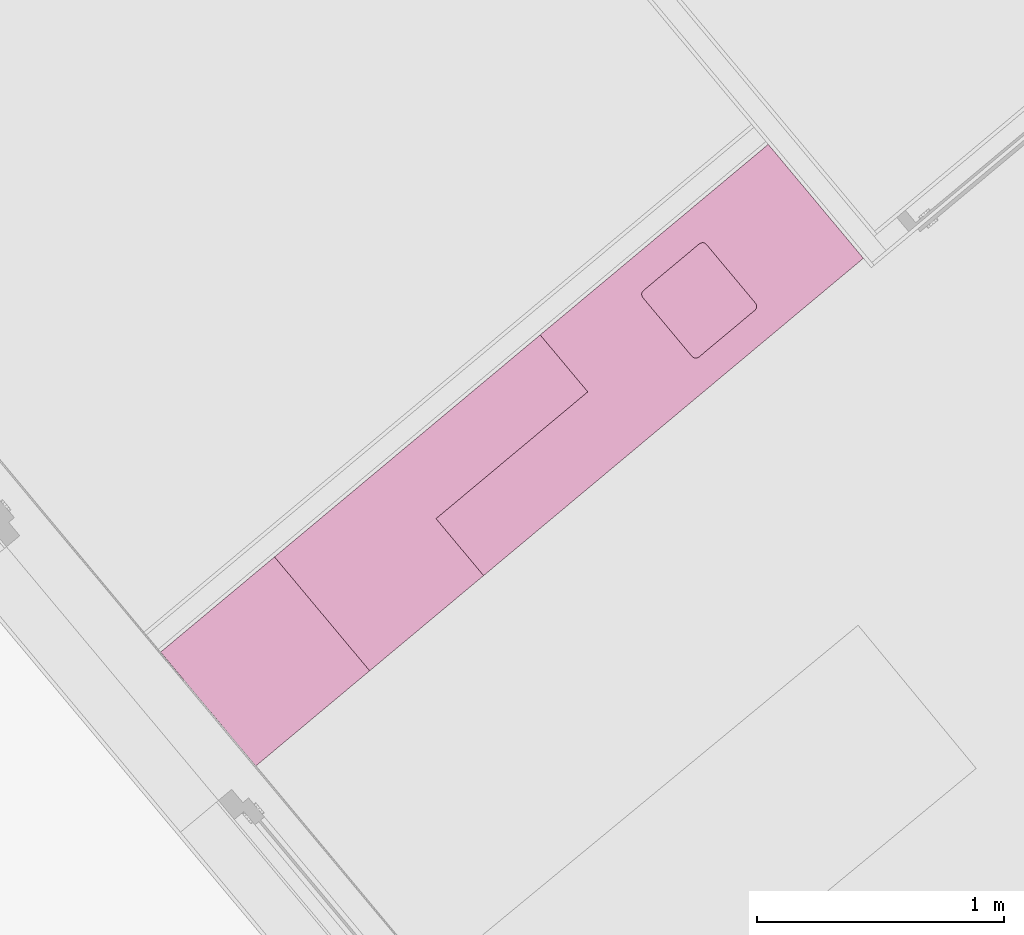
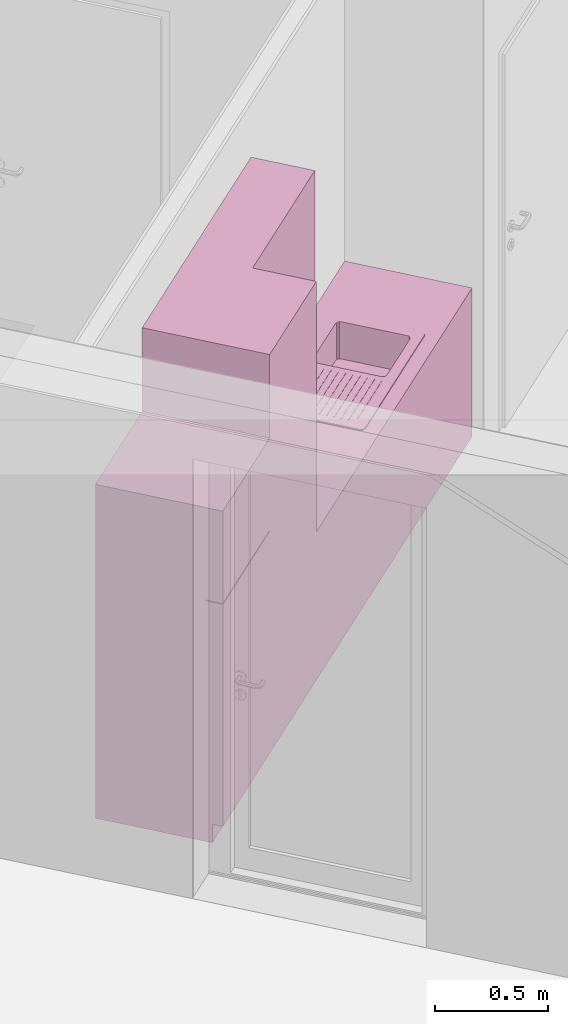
# One storey, part 70 of 75: 1 furniture element.
"""IFC4 building model written with IfcOpenShell, lengths in metres."""

from ifc_helpers import new_model, entity, si_unit, converted_unit, derived_unit, direction, frame, origin_with_axes, place, context, subcontext, project, spatial, polygons, source, transform, mapped, type_object, element, save


model = new_model("IFC4")

# Units and contexts
model_context = context("Model", 3, precision=1e-05, world=origin_with_axes(), true_north=direction((0.0, 1.0)))
body_context = subcontext(model_context, "Body", "Model", "MODEL_VIEW")
ifc_project = project(units=[si_unit("LENGTHUNIT", "METRE"), si_unit("AREAUNIT", "SQUARE_METRE"), si_unit("VOLUMEUNIT", "CUBIC_METRE"), converted_unit("PLANEANGLEUNIT", "DEGREE", entity("IfcPlaneAngleMeasure", 0.0174532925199), si_unit("PLANEANGLEUNIT", "RADIAN"), dimensions=[0, 0, 0, 0, 0, 0, 0]), converted_unit("TIMEUNIT", "Year", entity("IfcTimeMeasure", 31556926.0), si_unit("TIMEUNIT", "SECOND"), dimensions=[0, 0, 1, 0, 0, 0, 0]), si_unit("MASSUNIT", "GRAM", prefix="KILO"), si_unit("THERMODYNAMICTEMPERATUREUNIT", "DEGREE_CELSIUS"), si_unit("LUMINOUSINTENSITYUNIT", "LUMEN"), si_unit("ENERGYUNIT", "JOULE", prefix="MEGA"), derived_unit("THERMALCONDUCTANCEUNIT", [(si_unit("POWERUNIT", "WATT"), 1), (si_unit("LENGTHUNIT", "METRE"), -1), (si_unit("THERMODYNAMICTEMPERATUREUNIT", "KELVIN"), -1)]), derived_unit("SPECIFICHEATCAPACITYUNIT", [(si_unit("ENERGYUNIT", "JOULE"), 1), (si_unit("MASSUNIT", "GRAM", prefix="KILO"), -1), (si_unit("THERMODYNAMICTEMPERATUREUNIT", "KELVIN"), -1)]), derived_unit("MASSDENSITYUNIT", [(si_unit("MASSUNIT", "GRAM", prefix="KILO"), 1), (si_unit("VOLUMEUNIT", "CUBIC_METRE"), -1)])], contexts=[model_context])

# Site, building, storey, space
site_placement = place(None, frame((-0.00153261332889, -0.00661245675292, 0.0), z_axis=(0.0, 0.0, 1.0), x_axis=(1.0, 0.0, 0.0)))
site = spatial("IfcSite", under=ifc_project, at=site_placement, Name="Gelände", CompositionType="ELEMENT")
building_placement = place(site_placement, origin_with_axes())
building = spatial("IfcBuilding", under=site, at=building_placement, Name="Gebäude", CompositionType="ELEMENT")
storey_placement = place(building_placement, frame((0.0, 0.0, -0.22), z_axis=(0.0, 0.0, 1.0), x_axis=(1.0, 0.0, 0.0)))
storey = spatial("IfcBuildingStorey", under=building, at=storey_placement, Name="EG", CompositionType="ELEMENT", Elevation=-0.22)
space_placement = place(storey_placement, frame((3.52034051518, 12.5619496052, 0.22), z_axis=(0.0, 0.0, 1.0), x_axis=(-0.641209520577, 0.767365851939, 0.0)))
space = spatial("IfcSpace", under=storey, at=space_placement, CompositionType="ELEMENT", PredefinedType="NOTDEFINED")

# Furniture
furniture_type = type_object("IfcFurnitureType", Name="Konzeptküche 26", AssemblyPlace="NOTDEFINED", PredefinedType="NOTDEFINED")
shared_shape = source(origin_with_axes(), body_context, "Body", "Tessellation", [
    polygons([(-0.968323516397, 0.0, 0.0), (-0.968323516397, 0.0, 0.1), (-2.96857705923, 0.0, 0.1), (-2.96857705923, 0.0, 0.0), (-0.968323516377, 0.55, 0.0), (-0.968323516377, 0.55, 0.1), (-2.96857705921, 0.550000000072, 0.1), (-2.96857705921, 0.550000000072, 0.0)], [[[1, 2, 3, 4]], [[5, 6, 2, 1]], [[2, 6, 7, 3]], [[4, 3, 7, 8]], [[1, 4, 8, 5]], [[8, 7, 6, 5]]], closed=True),
    polygons([(-0.968323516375, 0.6, 0.85), (-0.968323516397, 0.0, 0.85), (-2.96857705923, 0.0, 0.85), (-2.96857705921, 0.600000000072, 0.85), (-1.79253770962, 0.0550000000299, 0.85), (-1.7925377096, 0.50500000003, 0.85), (-2.5425377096, 0.505000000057, 0.85), (-2.54253770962, 0.0550000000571, 0.85), (-0.968323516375, 0.6, 0.9), (-0.968323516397, 0.0, 0.9), (-2.96857705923, 0.0, 0.9), (-2.96857705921, 0.600000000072, 0.9), (-1.7925377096, 0.50500000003, 0.9), (-1.79253770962, 0.0550000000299, 0.9), (-2.5425377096, 0.505000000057, 0.9), (-2.54253770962, 0.0550000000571, 0.9)], [[[1, 2, 3, 4], [5, 6, 7, 8]], [[2, 1, 9, 10]], [[3, 2, 10, 11]], [[4, 3, 11, 12]], [[1, 4, 12, 9]], [[13, 6, 5, 14]], [[15, 7, 6, 13]], [[16, 8, 7, 15]], [[14, 5, 8, 16]], [[11, 10, 9, 12], [14, 16, 15, 13]]], closed=True),
    polygons([(-0.968323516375, 0.6, 0.1), (-0.968323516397, 0.0, 0.1), (-2.96857705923, 0.0, 0.1), (-2.96857705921, 0.600000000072, 0.1), (-1.79253770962, 0.0550000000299, 0.1), (-1.7925377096, 0.50500000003, 0.1), (-2.5425377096, 0.505000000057, 0.1), (-2.54253770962, 0.0550000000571, 0.1), (-0.968323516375, 0.6, 0.85), (-0.968323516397, 0.0, 0.85), (-2.96857705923, 0.0, 0.85), (-2.96857705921, 0.600000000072, 0.85), (-1.7925377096, 0.50500000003, 0.85), (-1.79253770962, 0.0550000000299, 0.85), (-2.5425377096, 0.505000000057, 0.85), (-2.54253770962, 0.0550000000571, 0.85)], [[[1, 2, 3, 4], [5, 6, 7, 8]], [[2, 1, 9, 10]], [[3, 2, 10, 11]], [[4, 3, 11, 12]], [[1, 4, 12, 9]], [[13, 6, 5, 14]], [[15, 7, 6, 13]], [[16, 8, 7, 15]], [[14, 5, 8, 16]], [[11, 10, 9, 12], [14, 16, 15, 13]]], closed=True),
    polygons([(-0.968323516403, 0.0, 1.5), (-0.968323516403, 0.0, 2.25), (-1.76753770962, 0.0, 2.25), (-1.76753770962, 0.0, 1.5), (-0.968323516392, 0.3, 1.5), (-0.968323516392, 0.3, 2.25), (-1.76753770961, 0.300000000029, 2.25), (-1.76753770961, 0.300000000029, 1.5)], [[[1, 2, 3, 4]], [[5, 6, 2, 1]], [[2, 6, 7, 3]], [[4, 3, 7, 8]], [[1, 4, 8, 5]], [[8, 7, 6, 5]]], closed=True),
    polygons([(-0.368323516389, 0.519999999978, 0.0), (-0.368323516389, 0.519999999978, 0.1), (-0.368323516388, 0.549999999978, 0.1), (-0.368323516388, 0.549999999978, 0.0), (0.231676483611, 0.519999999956, 0.0), (0.231676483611, 0.519999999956, 0.1), (0.231676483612, 0.549999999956, 0.1), (0.231676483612, 0.549999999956, 0.0)], [[[1, 2, 3, 4]], [[5, 6, 2, 1]], [[2, 6, 7, 3]], [[4, 3, 7, 8]], [[1, 4, 8, 5]], [[8, 7, 6, 5]]], closed=True),
    polygons([(-0.368323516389, 0.519999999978, 0.0), (-0.368323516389, 0.519999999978, 1.8), (0.231676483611, 0.519999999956, 1.8), (0.231676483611, 0.519999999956, 0.0), (-0.368323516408, 0.0, 0.0), (-0.368323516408, 0.0, 1.8), (0.231676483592, 0.0, 1.8), (0.231676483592, 0.0, 0.0)], [[[1, 2, 3, 4]], [[5, 6, 2, 1]], [[2, 6, 7, 3]], [[4, 3, 7, 8]], [[1, 4, 8, 5]], [[8, 7, 6, 5]]], closed=True),
    polygons([(-0.368323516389, 0.519899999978, 0.1), (-0.368323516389, 0.519899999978, 1.2975), (-0.368323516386, 0.599999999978, 1.2975), (-0.368323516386, 0.599999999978, 0.1), (0.231676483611, 0.519899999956, 0.1), (0.231676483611, 0.519899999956, 1.2975), (0.231676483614, 0.599999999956, 1.2975), (0.231676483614, 0.599999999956, 0.1)], [[[1, 2, 3, 4]], [[5, 6, 2, 1]], [[2, 6, 7, 3]], [[4, 3, 7, 8]], [[1, 4, 8, 5]], [[8, 7, 6, 5]]], closed=True),
    polygons([(-0.368323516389, 0.519899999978, 1.3025), (-0.368323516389, 0.519899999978, 1.8), (-0.368323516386, 0.599999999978, 1.8), (-0.368323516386, 0.599999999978, 1.3025), (0.231676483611, 0.519899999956, 1.3025), (0.231676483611, 0.519899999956, 1.8), (0.231676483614, 0.599999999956, 1.8), (0.231676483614, 0.599999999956, 1.3025)], [[[1, 2, 3, 4]], [[5, 6, 2, 1]], [[2, 6, 7, 3]], [[4, 3, 7, 8]], [[1, 4, 8, 5]], [[8, 7, 6, 5]]], closed=True),
    polygons([(-2.4975377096, 0.480000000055, 0.705), (-2.4975377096, 0.480000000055, 0.9), (-2.2025377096, 0.480000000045, 0.9), (-2.2025377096, 0.480000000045, 0.705), (-2.50519137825, 0.478477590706, 0.705), (-2.50519137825, 0.478477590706, 0.9), (-2.19488404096, 0.478477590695, 0.9), (-2.19488404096, 0.478477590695, 0.705), (-2.18839557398, 0.474142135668, 0.705), (-2.18406011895, 0.467653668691, 0.705), (-2.18253770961, 0.460000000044, 0.705), (-2.18253770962, 0.150000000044, 0.705), (-2.18406011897, 0.142346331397, 0.705), (-2.18839557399, 0.13585786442, 0.705), (-2.19488404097, 0.131522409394, 0.705), (-2.20253770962, 0.130000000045, 0.705), (-2.49753770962, 0.130000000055, 0.705), (-2.50519137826, 0.131522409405, 0.705), (-2.51167984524, 0.135857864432, 0.705), (-2.51601530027, 0.142346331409, 0.705), (-2.51753770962, 0.150000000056, 0.705), (-2.51753770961, 0.460000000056, 0.705), (-2.51601530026, 0.467653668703, 0.705), (-2.51167984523, 0.47414213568, 0.705), (-2.51167984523, 0.47414213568, 0.9), (-2.18839557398, 0.474142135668, 0.9), (-2.18406011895, 0.467653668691, 0.9), (-2.18253770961, 0.460000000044, 0.9), (-2.18253770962, 0.150000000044, 0.9), (-2.18406011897, 0.142346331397, 0.9), (-2.18839557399, 0.13585786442, 0.9), (-2.19488404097, 0.131522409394, 0.9), (-2.20253770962, 0.130000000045, 0.9), (-2.49753770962, 0.130000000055, 0.9), (-2.50519137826, 0.131522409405, 0.9), (-2.51167984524, 0.135857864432, 0.9), (-2.51601530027, 0.142346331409, 0.9), (-2.51753770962, 0.150000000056, 0.9), (-2.51753770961, 0.460000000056, 0.9), (-2.51601530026, 0.467653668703, 0.9)], [[[1, 2, 3, 4]], [[5, 6, 2, 1]], [[4, 3, 7, 8]], [[1, 4, 8, 9, 10, 11, 12, 13, 14, 15, 16, 17, 18, 19, 20, 21, 22, 23, 24, 5]], [[24, 25, 6, 5]], [[8, 7, 26, 9]], [[9, 26, 27, 10]], [[10, 27, 28, 11]], [[11, 28, 29, 12]], [[12, 29, 30, 13]], [[13, 30, 31, 14]], [[14, 31, 32, 15]], [[15, 32, 33, 16]], [[16, 33, 34, 17]], [[17, 34, 35, 18]], [[18, 35, 36, 19]], [[19, 36, 37, 20]], [[20, 37, 38, 21]], [[21, 38, 39, 22]], [[22, 39, 40, 23]], [[23, 40, 25, 24]]], closed=False),
    polygons([(-2.5475377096, 0.530000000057, 0.9), (-2.5475377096, 0.530000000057, 0.905), (-1.7875377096, 0.53000000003, 0.905), (-1.7875377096, 0.53000000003, 0.9), (-2.55519137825, 0.528477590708, 0.9), (-2.55519137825, 0.528477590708, 0.905), (-2.56167984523, 0.524142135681, 0.905), (-2.56601530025, 0.517653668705, 0.905), (-2.5675377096, 0.510000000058, 0.905), (-2.56753770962, 0.050000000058, 0.905), (-2.56601530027, 0.0423463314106, 0.905), (-2.56167984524, 0.035857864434, 0.905), (-2.55519137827, 0.0315224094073, 0.905), (-2.54753770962, 0.0300000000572, 0.905), (-1.78753770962, 0.0300000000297, 0.905), (-1.77988404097, 0.0315224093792, 0.905), (-1.773395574, 0.0358578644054, 0.905), (-1.76906011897, 0.0423463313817, 0.905), (-1.76753770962, 0.050000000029, 0.905), (-1.7675377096, 0.510000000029, 0.905), (-1.76906011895, 0.517653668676, 0.905), (-1.77339557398, 0.524142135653, 0.905), (-1.77988404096, 0.52847759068, 0.905), (-2.4975377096, 0.480000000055, 0.905), (-2.2025377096, 0.480000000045, 0.905), (-2.19488404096, 0.478477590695, 0.905), (-2.18839557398, 0.474142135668, 0.905), (-2.18406011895, 0.467653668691, 0.905), (-2.18253770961, 0.460000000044, 0.905), (-2.18253770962, 0.150000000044, 0.905), (-2.18406011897, 0.142346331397, 0.905), (-2.18839557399, 0.13585786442, 0.905), (-2.19488404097, 0.131522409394, 0.905), (-2.20253770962, 0.130000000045, 0.905), (-2.49753770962, 0.130000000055, 0.905), (-2.50519137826, 0.131522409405, 0.905), (-2.51167984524, 0.135857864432, 0.905), (-2.51601530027, 0.142346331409, 0.905), (-2.51753770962, 0.150000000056, 0.905), (-2.51753770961, 0.460000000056, 0.905), (-2.51601530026, 0.467653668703, 0.905), (-2.51167984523, 0.47414213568, 0.905), (-2.50519137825, 0.478477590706, 0.905), (-1.77988404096, 0.52847759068, 0.9), (-1.77339557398, 0.524142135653, 0.9), (-1.76906011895, 0.517653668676, 0.9), (-1.7675377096, 0.510000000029, 0.9), (-1.76753770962, 0.050000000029, 0.9), (-1.76906011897, 0.0423463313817, 0.9), (-1.773395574, 0.0358578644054, 0.9), (-1.77988404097, 0.0315224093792, 0.9), (-1.78753770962, 0.0300000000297, 0.9), (-2.54753770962, 0.0300000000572, 0.9), (-2.55519137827, 0.0315224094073, 0.9), (-2.56167984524, 0.035857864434, 0.9), (-2.56601530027, 0.0423463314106, 0.9), (-2.56753770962, 0.050000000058, 0.9), (-2.5675377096, 0.510000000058, 0.9), (-2.56601530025, 0.517653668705, 0.9), (-2.56167984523, 0.524142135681, 0.9), (-2.4975377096, 0.480000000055, 0.9), (-2.50519137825, 0.478477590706, 0.9), (-2.51167984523, 0.47414213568, 0.9), (-2.51601530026, 0.467653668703, 0.9), (-2.51753770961, 0.460000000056, 0.9), (-2.51753770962, 0.150000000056, 0.9), (-2.51601530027, 0.142346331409, 0.9), (-2.51167984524, 0.135857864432, 0.9), (-2.50519137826, 0.131522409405, 0.9), (-2.49753770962, 0.130000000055, 0.9), (-2.20253770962, 0.130000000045, 0.9), (-2.19488404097, 0.131522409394, 0.9), (-2.18839557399, 0.13585786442, 0.9), (-2.18406011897, 0.142346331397, 0.9), (-2.18253770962, 0.150000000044, 0.9), (-2.18253770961, 0.460000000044, 0.9), (-2.18406011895, 0.467653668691, 0.9), (-2.18839557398, 0.474142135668, 0.9), (-2.19488404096, 0.478477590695, 0.9), (-2.2025377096, 0.480000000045, 0.9)], [[[1, 2, 3, 4]], [[5, 6, 2, 1]], [[2, 6, 7, 8, 9, 10, 11, 12, 13, 14, 15, 16, 17, 18, 19, 20, 21, 22, 23, 3], [24, 25, 26, 27, 28, 29, 30, 31, 32, 33, 34, 35, 36, 37, 38, 39, 40, 41, 42, 43]], [[4, 3, 23, 44]], [[1, 4, 44, 45, 46, 47, 48, 49, 50, 51, 52, 53, 54, 55, 56, 57, 58, 59, 60, 5], [61, 62, 63, 64, 65, 66, 67, 68, 69, 70, 71, 72, 73, 74, 75, 76, 77, 78, 79, 80]], [[60, 7, 6, 5]], [[59, 8, 7, 60]], [[58, 9, 8, 59]], [[57, 10, 9, 58]], [[56, 11, 10, 57]], [[55, 12, 11, 56]], [[54, 13, 12, 55]], [[53, 14, 13, 54]], [[52, 15, 14, 53]], [[51, 16, 15, 52]], [[50, 17, 16, 51]], [[49, 18, 17, 50]], [[48, 19, 18, 49]], [[47, 20, 19, 48]], [[46, 21, 20, 47]], [[45, 22, 21, 46]], [[44, 23, 22, 45]], [[80, 25, 24, 61]], [[79, 26, 25, 80]], [[78, 27, 26, 79]], [[77, 28, 27, 78]], [[76, 29, 28, 77]], [[75, 30, 29, 76]], [[74, 31, 30, 75]], [[73, 32, 31, 74]], [[72, 33, 32, 73]], [[71, 34, 33, 72]], [[70, 35, 34, 71]], [[69, 36, 35, 70]], [[68, 37, 36, 69]], [[67, 38, 37, 68]], [[66, 39, 38, 67]], [[65, 40, 39, 66]], [[64, 41, 40, 65]], [[63, 42, 41, 64]], [[62, 43, 42, 63]], [[61, 24, 43, 62]]], closed=True),
    polygons([(-2.1525377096, 0.475000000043, 0.905), (-2.1525377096, 0.475000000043, 0.907), (-1.8475377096, 0.475000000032, 0.907), (-1.8475377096, 0.475000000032, 0.905), (-2.1525377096, 0.470000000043, 0.905), (-2.1525377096, 0.470000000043, 0.907), (-1.8475377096, 0.470000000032, 0.907), (-1.8475377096, 0.470000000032, 0.905)], [[[1, 2, 3, 4]], [[5, 6, 2, 1]], [[2, 6, 7, 3]], [[4, 3, 7, 8]], [[1, 4, 8, 5]], [[8, 7, 6, 5]]], closed=True),
    polygons([(-2.15253770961, 0.441000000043, 0.905), (-2.15253770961, 0.441000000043, 0.907), (-1.81753770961, 0.441000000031, 0.907), (-1.81753770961, 0.441000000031, 0.905), (-2.15253770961, 0.436000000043, 0.905), (-2.15253770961, 0.436000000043, 0.907), (-1.81753770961, 0.436000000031, 0.907), (-1.81753770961, 0.436000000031, 0.905)], [[[1, 2, 3, 4]], [[5, 6, 2, 1]], [[2, 6, 7, 3]], [[4, 3, 7, 8]], [[1, 4, 8, 5]], [[8, 7, 6, 5]]], closed=True),
    polygons([(-2.15253770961, 0.407000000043, 0.905), (-2.15253770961, 0.407000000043, 0.907), (-1.81753770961, 0.407000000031, 0.907), (-1.81753770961, 0.407000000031, 0.905), (-2.15253770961, 0.402000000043, 0.905), (-2.15253770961, 0.402000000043, 0.907), (-1.81753770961, 0.402000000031, 0.907), (-1.81753770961, 0.402000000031, 0.905)], [[[1, 2, 3, 4]], [[5, 6, 2, 1]], [[2, 6, 7, 3]], [[4, 3, 7, 8]], [[1, 4, 8, 5]], [[8, 7, 6, 5]]], closed=True),
    polygons([(-2.15253770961, 0.373000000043, 0.905), (-2.15253770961, 0.373000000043, 0.907), (-1.81753770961, 0.373000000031, 0.907), (-1.81753770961, 0.373000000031, 0.905), (-2.15253770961, 0.368000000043, 0.905), (-2.15253770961, 0.368000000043, 0.907), (-1.81753770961, 0.368000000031, 0.907), (-1.81753770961, 0.368000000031, 0.905)], [[[1, 2, 3, 4]], [[5, 6, 2, 1]], [[2, 6, 7, 3]], [[4, 3, 7, 8]], [[1, 4, 8, 5]], [[8, 7, 6, 5]]], closed=True),
    polygons([(-2.15253770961, 0.339000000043, 0.905), (-2.15253770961, 0.339000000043, 0.907), (-1.81753770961, 0.339000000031, 0.907), (-1.81753770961, 0.339000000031, 0.905), (-2.15253770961, 0.334000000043, 0.905), (-2.15253770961, 0.334000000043, 0.907), (-1.81753770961, 0.334000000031, 0.907), (-1.81753770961, 0.334000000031, 0.905)], [[[1, 2, 3, 4]], [[5, 6, 2, 1]], [[2, 6, 7, 3]], [[4, 3, 7, 8]], [[1, 4, 8, 5]], [[8, 7, 6, 5]]], closed=True),
    polygons([(-2.15253770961, 0.305000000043, 0.905), (-2.15253770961, 0.305000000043, 0.907), (-1.81753770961, 0.305000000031, 0.907), (-1.81753770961, 0.305000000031, 0.905), (-2.15253770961, 0.300000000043, 0.905), (-2.15253770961, 0.300000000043, 0.907), (-1.81753770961, 0.300000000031, 0.907), (-1.81753770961, 0.300000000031, 0.905)], [[[1, 2, 3, 4]], [[5, 6, 2, 1]], [[2, 6, 7, 3]], [[4, 3, 7, 8]], [[1, 4, 8, 5]], [[8, 7, 6, 5]]], closed=True),
    polygons([(-2.15253770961, 0.271000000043, 0.905), (-2.15253770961, 0.271000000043, 0.907), (-1.81753770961, 0.271000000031, 0.907), (-1.81753770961, 0.271000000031, 0.905), (-2.15253770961, 0.266000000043, 0.905), (-2.15253770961, 0.266000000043, 0.907), (-1.81753770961, 0.266000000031, 0.907), (-1.81753770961, 0.266000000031, 0.905)], [[[1, 2, 3, 4]], [[5, 6, 2, 1]], [[2, 6, 7, 3]], [[4, 3, 7, 8]], [[1, 4, 8, 5]], [[8, 7, 6, 5]]], closed=True),
    polygons([(-2.15253770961, 0.237000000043, 0.905), (-2.15253770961, 0.237000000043, 0.907), (-1.81753770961, 0.237000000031, 0.907), (-1.81753770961, 0.237000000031, 0.905), (-2.15253770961, 0.232000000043, 0.905), (-2.15253770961, 0.232000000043, 0.907), (-1.81753770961, 0.232000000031, 0.907), (-1.81753770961, 0.232000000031, 0.905)], [[[1, 2, 3, 4]], [[5, 6, 2, 1]], [[2, 6, 7, 3]], [[4, 3, 7, 8]], [[1, 4, 8, 5]], [[8, 7, 6, 5]]], closed=True),
    polygons([(-2.15253770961, 0.203000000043, 0.905), (-2.15253770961, 0.203000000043, 0.907), (-1.81753770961, 0.203000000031, 0.907), (-1.81753770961, 0.203000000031, 0.905), (-2.15253770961, 0.198000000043, 0.905), (-2.15253770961, 0.198000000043, 0.907), (-1.81753770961, 0.198000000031, 0.907), (-1.81753770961, 0.198000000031, 0.905)], [[[1, 2, 3, 4]], [[5, 6, 2, 1]], [[2, 6, 7, 3]], [[4, 3, 7, 8]], [[1, 4, 8, 5]], [[8, 7, 6, 5]]], closed=True),
    polygons([(-2.15253770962, 0.169000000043, 0.905), (-2.15253770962, 0.169000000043, 0.907), (-1.81753770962, 0.169000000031, 0.907), (-1.81753770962, 0.169000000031, 0.905), (-2.15253770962, 0.164000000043, 0.905), (-2.15253770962, 0.164000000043, 0.907), (-1.81753770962, 0.164000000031, 0.907), (-1.81753770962, 0.164000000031, 0.905)], [[[1, 2, 3, 4]], [[5, 6, 2, 1]], [[2, 6, 7, 3]], [[4, 3, 7, 8]], [[1, 4, 8, 5]], [[8, 7, 6, 5]]], closed=True),
    polygons([(-2.15253770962, 0.135000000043, 0.905), (-2.15253770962, 0.135000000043, 0.907), (-1.84753770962, 0.135000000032, 0.907), (-1.84753770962, 0.135000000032, 0.905), (-2.15253770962, 0.130000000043, 0.905), (-2.15253770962, 0.130000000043, 0.907), (-1.84753770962, 0.130000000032, 0.907), (-1.84753770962, 0.130000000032, 0.905)], [[[1, 2, 3, 4]], [[5, 6, 2, 1]], [[2, 6, 7, 3]], [[4, 3, 7, 8]], [[1, 4, 8, 5]], [[8, 7, 6, 5]]], closed=True),
    polygons([(-0.968323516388, 0.55, 0.0), (-0.968323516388, 0.55, 0.1), (-0.368323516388, 0.549999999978, 0.1), (-0.368323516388, 0.549999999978, 0.0), (-0.968323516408, 0.0, 0.0), (-0.968323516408, 0.0, 0.1), (-0.368323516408, 0.0, 0.1), (-0.368323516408, 0.0, 0.0)], [[[1, 2, 3, 4]], [[5, 6, 2, 1]], [[2, 6, 7, 3]], [[4, 3, 7, 8]], [[1, 4, 8, 5]], [[8, 7, 6, 5]]], closed=True),
    polygons([(-0.968323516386, 0.6, 0.1), (-0.968323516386, 0.6, 2.25), (-0.368323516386, 0.599999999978, 2.25), (-0.368323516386, 0.599999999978, 0.1), (-0.968323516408, 0.0, 0.1), (-0.968323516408, 0.0, 2.25), (-0.368323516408, 0.0, 2.25), (-0.368323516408, 0.0, 0.1)], [[[1, 2, 3, 4]], [[5, 6, 2, 1]], [[2, 6, 7, 3]], [[4, 3, 7, 8]], [[1, 4, 8, 5]], [[8, 7, 6, 5]]], closed=True),
])
furniture_placement = place(space_placement, frame((7.36387397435, 4.57291539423, 0.0), z_axis=(0.0, 0.0, 1.0), x_axis=(0.0, 1.0, 0.0)))
element("IfcFurniture", 1, at=furniture_placement, inside=space, type_object=furniture_type, Name="Objekt-0002", PredefinedType="NOTDEFINED", context=body_context, shape_type="MappedRepresentation", body=[
    mapped(shared_shape, transform((0.0, 0.0, 0.0))),
])

save(model, "model.ifc")
